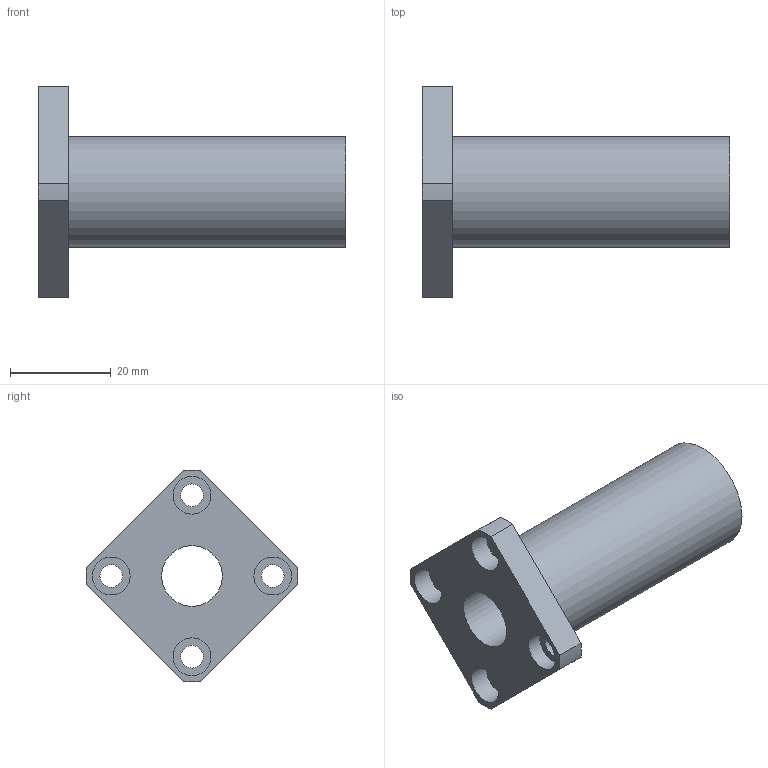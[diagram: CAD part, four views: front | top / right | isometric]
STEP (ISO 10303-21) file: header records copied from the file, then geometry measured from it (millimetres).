
FILE_DESCRIPTION( ( 'STEP AP203' ), '1' );
FILE_NAME( 'p:/temp/worker_4/temp/exporttempdir_2920_558_mG5fn/format_0/LMEK12LUU.stp', '2020-05-07T07:01:38', ( 'License CC BY-ND 4.0' ), ( 'CADENAS' ), ' ', 'PARTsolutions', ' ' );
FILE_SCHEMA( ( 'CONFIG_CONTROL_DESIGN' ) );
Length unit declared in the file: millimetre
Products named in the file (1): _LMEK12LUU
Bounding box: 61 x 41.98 x 41.98 mm (x, y, z)
Volume: 19269.9 mm3; surface area: 8992.6 mm2
Topology: 1 solids, 1 shells, 25 faces, 55 edges, 37 vertices
Faces by surface type: cylinder 14, plane 11
Full cylindrical faces by diameter (mm): 4.5 x4, 7.5 x4, 12 x1, 22 x1
Entity records: 710 total; most frequent: DIRECTION 124, CARTESIAN_POINT 106, ORIENTED_EDGE 88, AXIS2_PLACEMENT_3D 54, EDGE_LOOP 50, EDGE_CURVE 44, VERTEX_POINT 36, FACE_OUTER_BOUND 35
